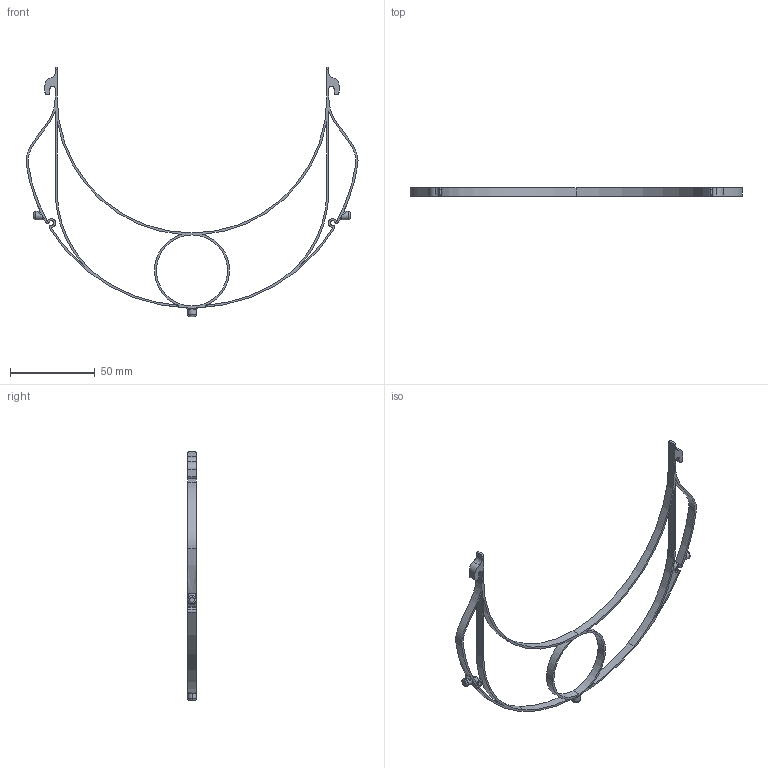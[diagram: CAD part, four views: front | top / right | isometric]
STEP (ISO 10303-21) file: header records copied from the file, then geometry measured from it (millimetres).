
FILE_DESCRIPTION (( 'STEP AP214' ), '1' );
FILE_NAME ('GRENG MVP Face Shield v1.STEP', '2020-03-31T22:28:35', ( '' ), ( '' ), 'SwSTEP 2.0', 'SolidWorks 2015', '' );
FILE_SCHEMA (( 'AUTOMOTIVE_DESIGN' ));
Length unit declared in the file: millimetre
Products named in the file (1): GRENG MVP Face Shield v1
Bounding box: 195.44 x 4.95 x 146.6 mm (x, y, z)
Volume: 6505.6 mm3; surface area: 12154.2 mm2
Topology: 1 solids, 1 shells, 111 faces, 315 edges, 194 vertices
Faces by surface type: cylinder 62, bspline 22, plane 21, torus 6
Entity records: 4673 total; most frequent: CARTESIAN_POINT 1829, ORIENTED_EDGE 606, DIRECTION 599, EDGE_CURVE 303, AXIS2_PLACEMENT_3D 244, VERTEX_POINT 194, CIRCLE 154, EDGE_LOOP 121
